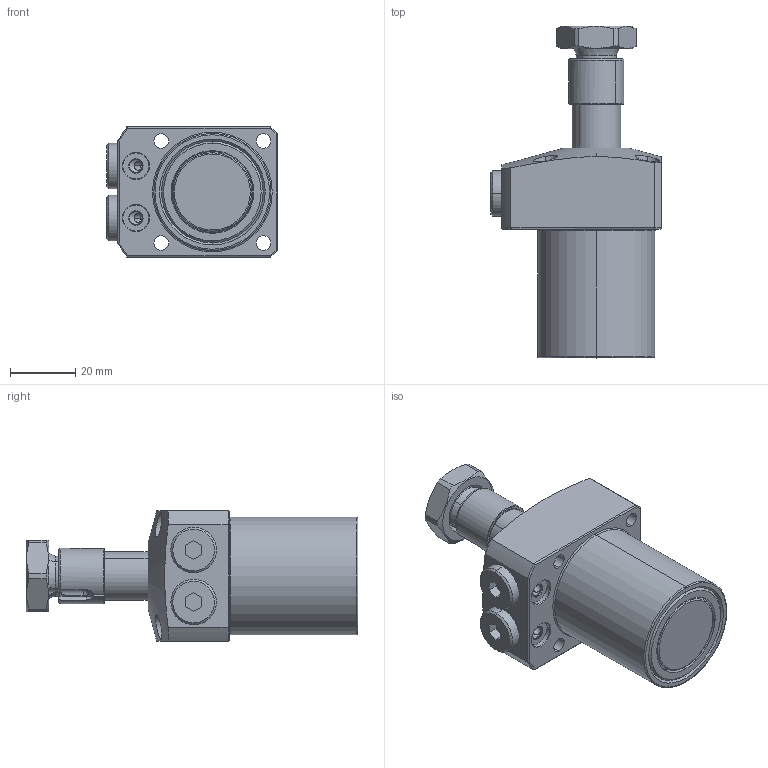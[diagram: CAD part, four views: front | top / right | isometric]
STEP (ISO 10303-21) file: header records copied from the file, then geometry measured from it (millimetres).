
FILE_DESCRIPTION(/* description */ (''),/* implementation_level */ '2;1');
FILE_NAME(/* name */ 'KTRC36-LN45.stp',/* time_stamp */ '2022-11-18T08:49:46+08:00',/* author */ (''),/* organization */ (''),/* preprocessor_version */ 'ST-DEVELOPER v16.7',/* originating_system */ 'SIEMENS PLM Software NX 12.0',/* authorisation */ '');
FILE_SCHEMA (('AP203_CONFIGURATION_CONTROLLED_3D_DESIGN_OF_MECHANICAL_PARTS_AND_ASSEMBLIES_MIM_LF { 1 0 10303 403 2 1 2}'));
Length unit declared in the file: millimetre
Products named in the file (7): KTRC36-LN45-07; KTRC36-LN45-06; KTRC36-LN45-05; KTRC36-LN45-04; KTRC36-LN45-02; KTRC36-LN45-01; LHA0360-CL-Y45_R01_step
Assembly tree (7 placements, depth 2):
  LHA0360-CL-Y45_R01_step
    KTRC36-LN45-01
    KTRC36-LN45-02
    KTRC36-LN45-04
    KTRC36-LN45-05
    KTRC36-LN45-06
    KTRC36-LN45-07  x2
Bounding box: 52.5 x 102 x 40 mm (x, y, z)
Volume: 90636.7 mm3; surface area: 21851.5 mm2
Topology: 7 solids, 7 shells, 238 faces, 567 edges, 355 vertices
Faces by surface type: cylinder 85, plane 77, cone 51, torus 23, sphere 2
Entity records: 8181 total; most frequent: CARTESIAN_POINT 2109, DIRECTION 1140, ORIENTED_EDGE 1074, EDGE_CURVE 537, AXIS2_PLACEMENT_3D 468, VERTEX_POINT 337, EDGE_LOOP 252, CIRCLE 235
